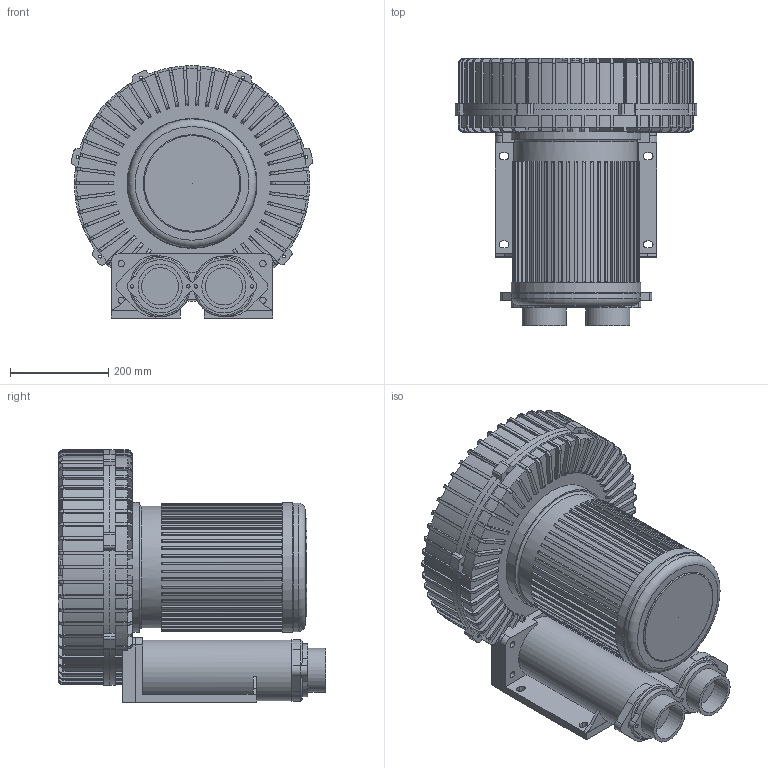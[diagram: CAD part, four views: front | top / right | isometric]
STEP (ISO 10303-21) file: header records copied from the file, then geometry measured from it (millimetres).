
FILE_DESCRIPTION(/* description */ ('Unknown'),/* implementation_level */ '2;1');
FILE_NAME(/* name */ '20201125 RB-10',/* time_stamp */ '2020-11-29T22:36:44+08:00',/* author */ ('å¤§èºè¨­è¨æéå¬å¸'),/* organization */ ('Unknown'),/* preprocessor_version */ 'ST-DEVELOPER v16.7',/* originating_system */ 'DEX',/* authorisation */ $);
FILE_SCHEMA (('AUTOMOTIVE_DESIGN {1 0 10303 214 3 1 1}'));
Length unit declared in the file: millimetre
Products named in the file (1): 20201125 RB-10
Bounding box: 493.01 x 545 x 514.97 mm (x, y, z)
Volume: 52629924.2 mm3; surface area: 1624406.5 mm2
Topology: 1 solids, 1 shells, 1368 faces, 3921 edges, 2607 vertices
Faces by surface type: plane 792, cylinder 286, cone 100, torus 96, bspline 94
Full cylindrical faces by diameter (mm): 5.998 x6, 7 x4, 13 x4, 75.755 x2, 75.789 x1, 90 x2, 199 x1, 249 x1, 262 x1, 265 x2
Entity records: 48174 total; most frequent: CARTESIAN_POINT 13508, ORIENTED_EDGE 7766, DIRECTION 6656, EDGE_CURVE 3883, VERTEX_POINT 2602, AXIS2_PLACEMENT_3D 2402, LINE 1852, VECTOR 1852
